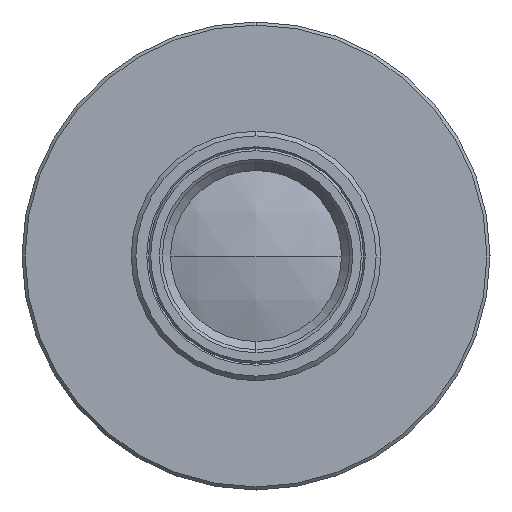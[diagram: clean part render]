
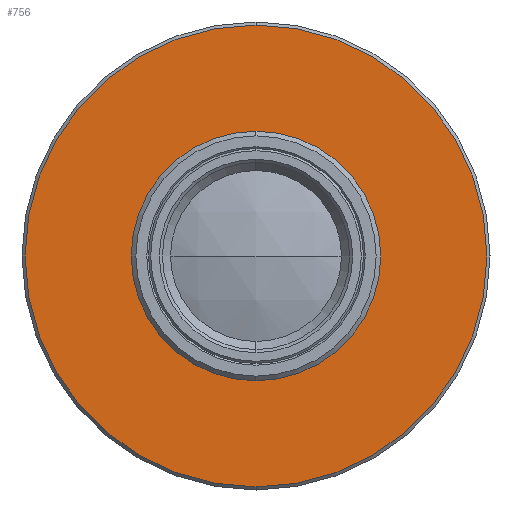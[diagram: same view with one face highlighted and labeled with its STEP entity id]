
A CAD part, left-side view. The second image highlights one B-rep face of the part: STEP entity #756.
In plain terms, the highlighted planar face has unit normal (-1, 0, 0).
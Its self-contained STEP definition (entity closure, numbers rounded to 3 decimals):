
#67 = CARTESIAN_POINT ( 'NONE',  ( 57.976, 0., 0. ) ) ;
#116 = EDGE_LOOP ( 'NONE', ( #1654, #360 ) ) ;
#206 = AXIS2_PLACEMENT_3D ( 'NONE', #1010, #1585, #626 ) ;
#226 = CARTESIAN_POINT ( 'NONE',  ( 57.976, 0., -8. ) ) ;
#244 = PLANE ( 'NONE',  #2123 ) ;
#329 = EDGE_LOOP ( 'NONE', ( #2048, #1750 ) ) ;
#360 = ORIENTED_EDGE ( 'NONE', *, *, #2307, .T. ) ;
#456 = CIRCLE ( 'NONE', #206, 14.8 ) ;
#507 = VERTEX_POINT ( 'NONE', #1641 ) ;
#546 = FACE_BOUND ( 'NONE', #116, .T. ) ;
#610 = DIRECTION ( 'NONE',  ( 0., 0., 1. ) ) ;
#626 = DIRECTION ( 'NONE',  ( 0., 0., -1. ) ) ;
#640 = CARTESIAN_POINT ( 'NONE',  ( 57.976, 0., 0. ) ) ;
#656 = DIRECTION ( 'NONE',  ( 1., 0., 0. ) ) ;
#710 = VERTEX_POINT ( 'NONE', #1512 ) ;
#728 = EDGE_CURVE ( 'NONE', #1092, #710, #2362, .T. ) ;
#756 = ADVANCED_FACE ( 'NONE', ( #546, #1219 ), #244, .T. ) ;
#884 = DIRECTION ( 'NONE',  ( 0., 0., -1. ) ) ;
#933 = EDGE_CURVE ( 'NONE', #710, #1092, #456, .T. ) ;
#1010 = CARTESIAN_POINT ( 'NONE',  ( 57.976, 0., 0. ) ) ;
#1022 = DIRECTION ( 'NONE',  ( 0., 0., -1. ) ) ;
#1092 = VERTEX_POINT ( 'NONE', #1458 ) ;
#1219 = FACE_OUTER_BOUND ( 'NONE', #329, .T. ) ;
#1353 = DIRECTION ( 'NONE',  ( 0., 0., -1. ) ) ;
#1435 = CIRCLE ( 'NONE', #2215, 8. ) ;
#1454 = CARTESIAN_POINT ( 'NONE',  ( 57.976, 0., 0. ) ) ;
#1458 = CARTESIAN_POINT ( 'NONE',  ( 57.976, 0., -14.8 ) ) ;
#1512 = CARTESIAN_POINT ( 'NONE',  ( 57.976, 0., 14.8 ) ) ;
#1585 = DIRECTION ( 'NONE',  ( 1., 0., 0. ) ) ;
#1641 = CARTESIAN_POINT ( 'NONE',  ( 57.976, 0., 8. ) ) ;
#1654 = ORIENTED_EDGE ( 'NONE', *, *, #1861, .T. ) ;
#1694 = VERTEX_POINT ( 'NONE', #226 ) ;
#1750 = ORIENTED_EDGE ( 'NONE', *, *, #933, .F. ) ;
#1861 = EDGE_CURVE ( 'NONE', #1694, #507, #2109, .T. ) ;
#1920 = CARTESIAN_POINT ( 'NONE',  ( 57.976, 8., 0. ) ) ;
#2027 = AXIS2_PLACEMENT_3D ( 'NONE', #67, #2277, #1353 ) ;
#2048 = ORIENTED_EDGE ( 'NONE', *, *, #728, .F. ) ;
#2109 = CIRCLE ( 'NONE', #2248, 8. ) ;
#2115 = DIRECTION ( 'NONE',  ( -1., 0., 0. ) ) ;
#2123 = AXIS2_PLACEMENT_3D ( 'NONE', #1920, #2115, #610 ) ;
#2215 = AXIS2_PLACEMENT_3D ( 'NONE', #640, #656, #1022 ) ;
#2248 = AXIS2_PLACEMENT_3D ( 'NONE', #1454, #2355, #884 ) ;
#2277 = DIRECTION ( 'NONE',  ( 1., 0., 0. ) ) ;
#2307 = EDGE_CURVE ( 'NONE', #507, #1694, #1435, .T. ) ;
#2355 = DIRECTION ( 'NONE',  ( 1., 0., 0. ) ) ;
#2362 = CIRCLE ( 'NONE', #2027, 14.8 ) ;
